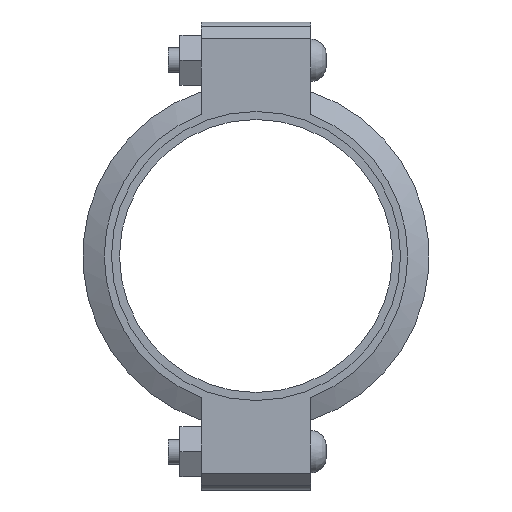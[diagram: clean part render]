
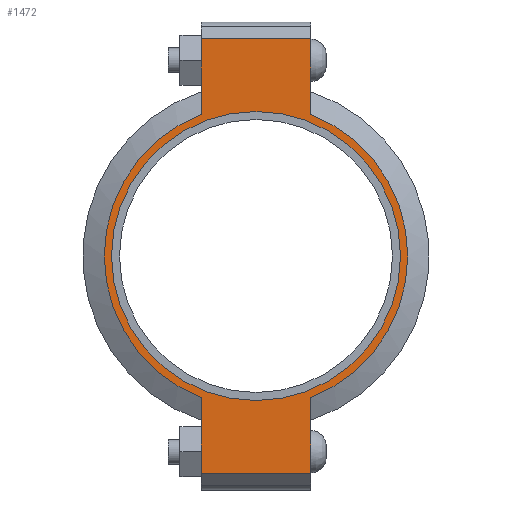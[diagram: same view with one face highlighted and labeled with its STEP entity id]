
A CAD part, left-side view. The second image highlights one B-rep face of the part: STEP entity #1472.
In plain terms, the highlighted planar face has unit normal (-1, 0, 0) as drawn and (0, 0, 1) by its records, which use the part's own axes.
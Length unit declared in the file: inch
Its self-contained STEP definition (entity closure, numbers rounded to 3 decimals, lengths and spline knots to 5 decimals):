
#152=LINE('',#2535,#243);
#160=LINE('',#2571,#251);
#167=LINE('',#2592,#258);
#176=LINE('',#2624,#267);
#177=LINE('',#2628,#268);
#178=LINE('',#2630,#269);
#243=VECTOR('',#2049,0.3937);
#251=VECTOR('',#2065,0.3937);
#258=VECTOR('',#2084,0.3937);
#267=VECTOR('',#2109,0.3937);
#268=VECTOR('',#2114,0.3937);
#269=VECTOR('',#2115,0.3937);
#321=FACE_BOUND('',#481,.T.);
#385=FACE_OUTER_BOUND('',#480,.T.);
#480=EDGE_LOOP('',(#1207,#1208,#1209,#1210,#1211,#1212,#1213,#1214));
#481=EDGE_LOOP('',(#1215));
#578=CIRCLE('',#1715,4.53);
#579=CIRCLE('',#1716,4.53);
#580=CIRCLE('',#1717,4.3125);
#683=VERTEX_POINT('',#2532);
#684=VERTEX_POINT('',#2534);
#695=VERTEX_POINT('',#2566);
#696=VERTEX_POINT('',#2570);
#703=VERTEX_POINT('',#2589);
#704=VERTEX_POINT('',#2591);
#714=VERTEX_POINT('',#2627);
#715=VERTEX_POINT('',#2629);
#716=VERTEX_POINT('',#2632);
#847=EDGE_CURVE('',#684,#683,#152,.T.);
#861=EDGE_CURVE('',#696,#695,#160,.T.);
#871=EDGE_CURVE('',#704,#703,#167,.T.);
#886=EDGE_CURVE('',#696,#683,#176,.T.);
#887=EDGE_CURVE('',#695,#704,#578,.T.);
#888=EDGE_CURVE('',#714,#703,#177,.T.);
#889=EDGE_CURVE('',#714,#715,#178,.T.);
#890=EDGE_CURVE('',#715,#684,#579,.T.);
#891=EDGE_CURVE('',#716,#716,#580,.T.);
#1207=ORIENTED_EDGE('',*,*,#886,.F.);
#1208=ORIENTED_EDGE('',*,*,#861,.T.);
#1209=ORIENTED_EDGE('',*,*,#887,.T.);
#1210=ORIENTED_EDGE('',*,*,#871,.T.);
#1211=ORIENTED_EDGE('',*,*,#888,.F.);
#1212=ORIENTED_EDGE('',*,*,#889,.T.);
#1213=ORIENTED_EDGE('',*,*,#890,.T.);
#1214=ORIENTED_EDGE('',*,*,#847,.T.);
#1215=ORIENTED_EDGE('',*,*,#891,.T.);
#1326=PLANE('',#1714);
#1472=ADVANCED_FACE('',(#385,#321),#1326,.T.);
#1714=AXIS2_PLACEMENT_3D('',#2625,#2110,#2111);
#1715=AXIS2_PLACEMENT_3D('',#2626,#2112,#2113);
#1716=AXIS2_PLACEMENT_3D('',#2631,#2116,#2117);
#1717=AXIS2_PLACEMENT_3D('',#2633,#2118,#2119);
#2049=DIRECTION('',(-1.,0.,0.));
#2065=DIRECTION('',(1.,0.,0.));
#2084=DIRECTION('',(1.,0.,0.));
#2109=DIRECTION('',(0.,1.,0.));
#2110=DIRECTION('center_axis',(0.,0.,1.));
#2111=DIRECTION('ref_axis',(1.,0.,0.));
#2112=DIRECTION('center_axis',(0.,0.,1.));
#2113=DIRECTION('ref_axis',(-1.,0.,0.));
#2114=DIRECTION('',(0.,-1.,0.));
#2115=DIRECTION('',(-1.,0.,0.));
#2116=DIRECTION('center_axis',(0.,0.,1.));
#2117=DIRECTION('ref_axis',(-1.,0.,0.));
#2118=DIRECTION('center_axis',(0.,0.,-1.));
#2119=DIRECTION('ref_axis',(-1.,0.,0.));
#2532=CARTESIAN_POINT('',(-6.485,1.63,1.16));
#2534=CARTESIAN_POINT('',(-4.22658,1.63,1.16));
#2535=CARTESIAN_POINT('',(-6.985,1.63,1.16));
#2566=CARTESIAN_POINT('',(-4.22658,-1.63,1.16));
#2570=CARTESIAN_POINT('',(-6.485,-1.63,1.16));
#2571=CARTESIAN_POINT('',(6.985,-1.63,1.16));
#2589=CARTESIAN_POINT('',(6.485,-1.63,1.16));
#2591=CARTESIAN_POINT('',(4.22658,-1.63,1.16));
#2592=CARTESIAN_POINT('',(6.985,-1.63,1.16));
#2624=CARTESIAN_POINT('',(-6.485,0.815,1.16));
#2625=CARTESIAN_POINT('Origin',(0.,0.,
1.16));
#2626=CARTESIAN_POINT('Origin',(0.,0.,1.16));
#2627=CARTESIAN_POINT('',(6.485,1.63,1.16));
#2628=CARTESIAN_POINT('',(6.485,-0.815,1.16));
#2629=CARTESIAN_POINT('',(4.22658,1.63,1.16));
#2630=CARTESIAN_POINT('',(-6.985,1.63,1.16));
#2631=CARTESIAN_POINT('Origin',(0.,0.,1.16));
#2632=CARTESIAN_POINT('',(4.3125,0.,1.16));
#2633=CARTESIAN_POINT('Origin',(0.,0.,1.16));
